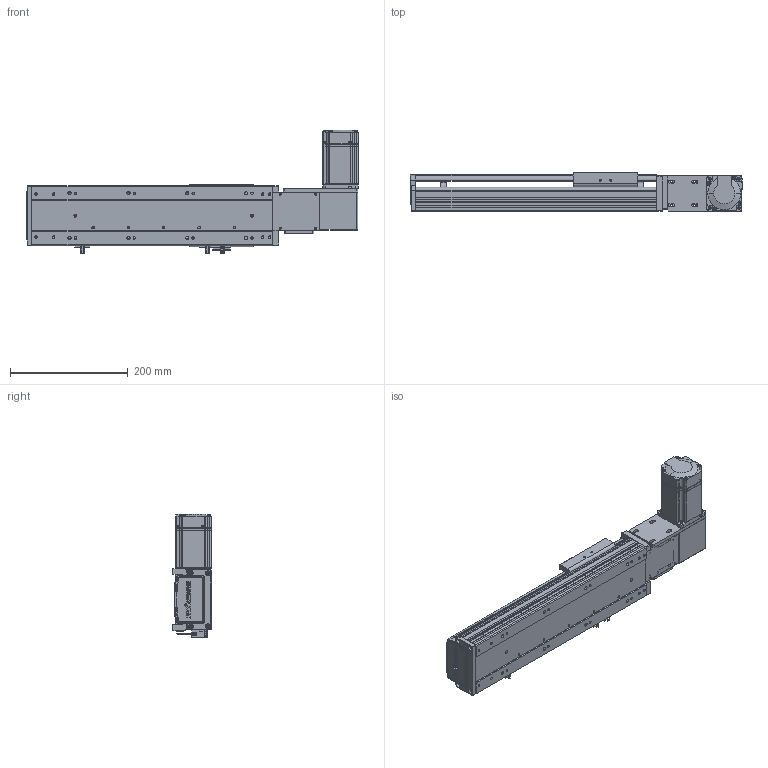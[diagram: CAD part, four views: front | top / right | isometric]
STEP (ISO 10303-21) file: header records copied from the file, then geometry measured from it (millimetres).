
FILE_DESCRIPTION (( 'STEP AP203' ), '1' );
FILE_NAME ('RY100-T-300-RK.SLDASM_200.step', '2024-04-25T08:21:29', ( '盈信电脑' ), ( '东莞市道滘镇水果街19号' ), 'SwSTEP 2.0', 'SolidWorks 2016', '' );
FILE_SCHEMA (( 'CONFIG_CONTROL_DESIGN' ));
Length unit declared in the file: millimetre
Products named in the file (15): RY100-T肮祭謫翋盓傅釱; 覜茼ん672; RY100-T粣創揤踡裔; RY100-T左右折电机安装板; RY80-T肮祭謫俋欶; RY100-T肮祭謫臏賑輸; 1; 侂狟200W萇儂; RY100-T-300-RK倰第奻裔_200; RY100-T-300-RK.SLDASM_200; RY100俋离覜茼え; RY100-T-300-RK倰第菁釱_200; RY100-T翋肮祭謫裔啣2; 滅袉蝶18-10; RY100綴裔啣
Assembly tree (18 placements, depth 3):
  RY100-T-300-RK.SLDASM_200
    RY100-T-300-RK倰第菁釱_200
    RY100-T-300-RK倰第奻裔_200
    RY100-T肮祭謫臏賑輸
    RY100綴裔啣
    覜茼ん672  x3
    RY100俋离覜茼え
    RY100-T肮祭謫翋盓傅釱
    RY100-T左右折电机安装板
    侂狟200W萇儂
      1
    RY100-T粣創揤踡裔
    滅袉蝶18-10  x2
    RY100-T翋肮祭謫裔啣2  x2
    RY80-T肮祭謫俋欶
Bounding box: 564 x 66 x 209.7 mm (x, y, z)
Volume: 1349483.7 mm3; surface area: 510079.8 mm2
Topology: 17 solids, 17 shells, 2089 faces, 5778 edges, 3752 vertices
Faces by surface type: plane 1177, cylinder 709, cone 125, bspline 78
Entity records: 65898 total; most frequent: CARTESIAN_POINT 15719, ORIENTED_EDGE 10292, DIRECTION 9794, EDGE_CURVE 5146, LINE 3418, VECTOR 3418, VERTEX_POINT 3388, AXIS2_PLACEMENT_3D 3188
